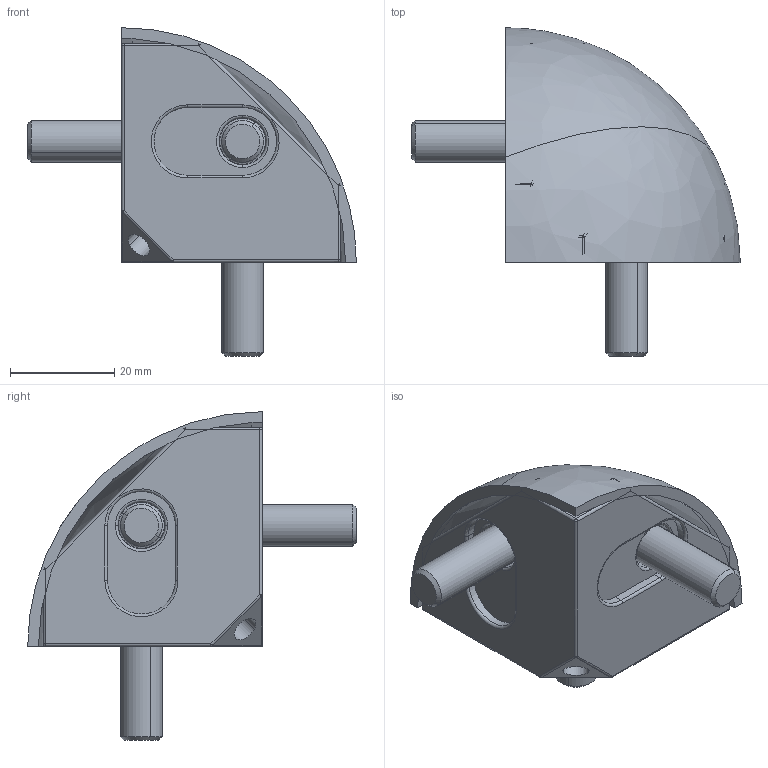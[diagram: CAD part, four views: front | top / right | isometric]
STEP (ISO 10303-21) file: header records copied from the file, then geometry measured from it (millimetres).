
FILE_DESCRIPTION (( 'STEP AP214' ), '1' );
FILE_NAME ('1.3024 Kulma 45 R 90.STEP', '2024-01-15T12:37:40', ( '' ), ( '' ), 'SwSTEP 2.0', 'SolidWorks 2024', '' );
FILE_SCHEMA (( 'AUTOMOTIVE_DESIGN' ));
Length unit declared in the file: millimetre
Products named in the file (1): 1.3024 Kulma 45 R 90
Bounding box: 63 x 63 x 63 mm (x, y, z)
Volume: 32214.1 mm3; surface area: 18185.2 mm2
Topology: 5 solids, 5 shells, 217 faces, 495 edges, 275 vertices
Faces by surface type: plane 79, cylinder 72, torus 30, sphere 20, cone 12, bspline 4
Entity records: 8500 total; most frequent: CARTESIAN_POINT 1213, DIRECTION 1099, ORIENTED_EDGE 952, EDGE_CURVE 476, AXIS2_PLACEMENT_3D 432, VERTEX_POINT 275, LINE 235, VECTOR 235
